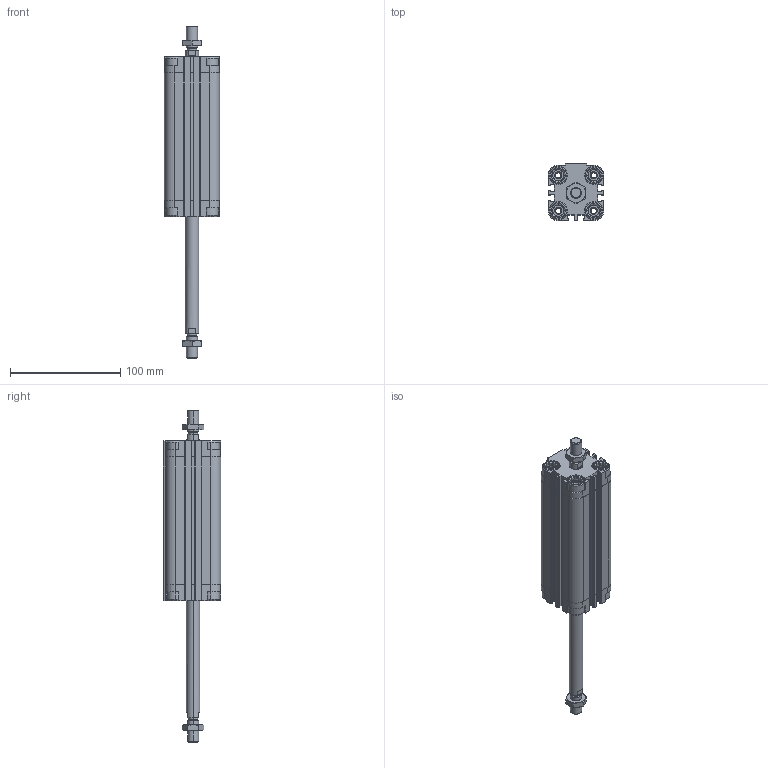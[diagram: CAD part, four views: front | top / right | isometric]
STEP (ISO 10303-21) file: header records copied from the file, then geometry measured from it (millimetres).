
FILE_DESCRIPTION (( 'STEP AP203' ), '1' );
FILE_NAME ('CDVU32-100M-P.STEP', '2020-07-21T15:15:14', ( '' ), ( '' ), 'SwSTEP 2.0', 'SolidWorks 2019', '' );
FILE_SCHEMA (( 'CONFIG_CONTROL_DESIGN' ));
Length unit declared in the file: millimetre
Products named in the file (1): CDVU32-100M-P
Bounding box: 50 x 52 x 300.5 mm (x, y, z)
Volume: 244544.7 mm3; surface area: 88170.2 mm2
Topology: 4 solids, 4 shells, 758 faces, 2004 edges, 1290 vertices
Faces by surface type: plane 438, cylinder 240, cone 80
Entity records: 24115 total; most frequent: CARTESIAN_POINT 5193, ORIENTED_EDGE 4000, DIRECTION 3862, EDGE_CURVE 2000, AXIS2_PLACEMENT_3D 1319, VERTEX_POINT 1290, LINE 1224, VECTOR 1224
